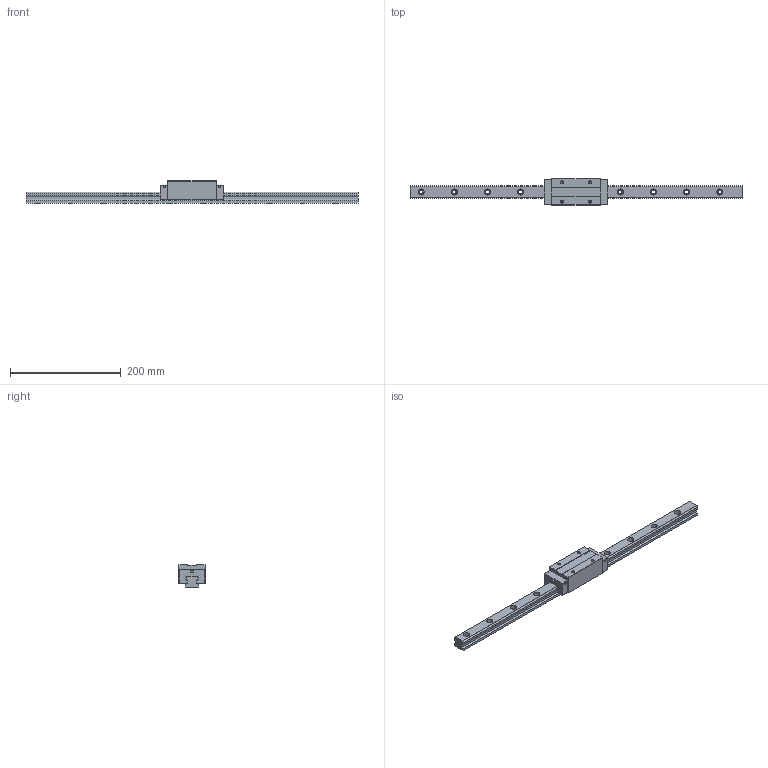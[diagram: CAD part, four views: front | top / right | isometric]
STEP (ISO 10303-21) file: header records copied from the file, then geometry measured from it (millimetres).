
FILE_DESCRIPTION (( 'STEP AP203' ), '1' );
FILE_NAME ('TRH25VE-SU.STEP', '2024-06-26T03:39:00', ( '' ), ( '' ), 'SwSTEP 2.0', 'SolidWorks 2022', '' );
FILE_SCHEMA (( 'CONFIG_CONTROL_DESIGN' ));
Length unit declared in the file: millimetre
Products named in the file (1): TRH25VE-SU
Bounding box: 600 x 48 x 40 mm (x, y, z)
Volume: 376909.5 mm3; surface area: 84431.5 mm2
Topology: 2 solids, 2 shells, 200 faces, 520 edges, 336 vertices
Faces by surface type: cylinder 96, plane 88, cone 16
Entity records: 6223 total; most frequent: DIRECTION 1114, CARTESIAN_POINT 1049, ORIENTED_EDGE 1024, EDGE_CURVE 512, AXIS2_PLACEMENT_3D 401, VERTEX_POINT 336, VECTOR 312, LINE 312
